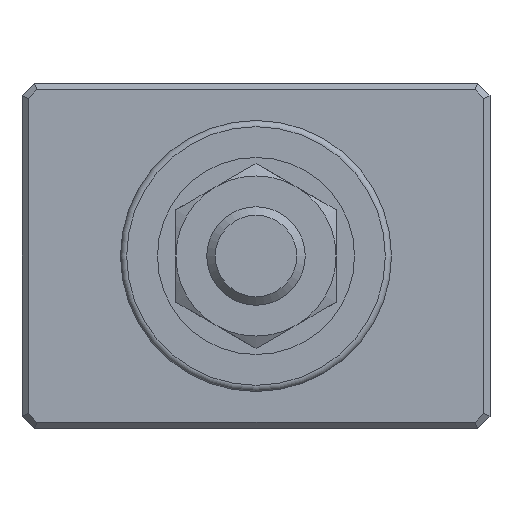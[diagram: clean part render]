
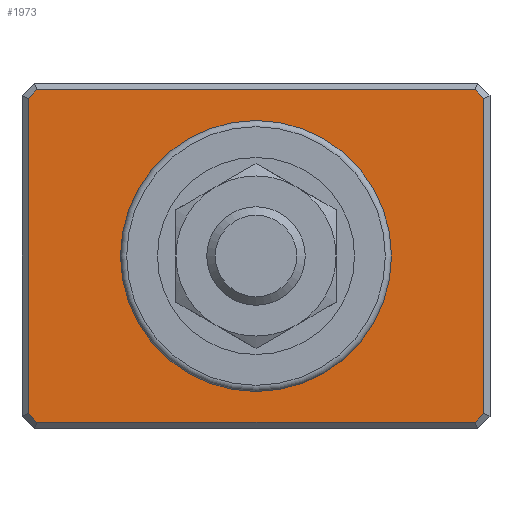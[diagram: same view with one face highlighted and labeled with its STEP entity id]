
A CAD part, front view. The second image highlights one B-rep face of the part: STEP entity #1973.
In plain terms, the highlighted planar face has unit normal (0, -1, 0).
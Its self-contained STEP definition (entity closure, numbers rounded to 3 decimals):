
#1706=CARTESIAN_POINT('',(17.793,-13.,-13.5));
#1707=VERTEX_POINT('',#1706);
#1708=CARTESIAN_POINT('',(-17.793,-13.,-13.5));
#1709=VERTEX_POINT('',#1708);
#1710=CARTESIAN_POINT('',(17.793,-13.,-13.5));
#1711=DIRECTION('',(-1.0,0.0,0.0));
#1712=VECTOR('',#1711,35.586);
#1713=LINE('',#1710,#1712);
#1714=EDGE_CURVE('',#1707,#1709,#1713,.T.);
#1746=CARTESIAN_POINT('',(-18.5,-13.,-12.793));
#1747=VERTEX_POINT('',#1746);
#1748=CARTESIAN_POINT('',(-17.793,-13.,-13.5));
#1749=DIRECTION('',(-0.707,0.0,0.707));
#1750=VECTOR('',#1749,1.);
#1751=LINE('',#1748,#1750);
#1752=EDGE_CURVE('',#1709,#1747,#1751,.T.);
#1784=CARTESIAN_POINT('',(-18.5,-13.,12.793));
#1785=VERTEX_POINT('',#1784);
#1786=CARTESIAN_POINT('',(-18.5,-13.,-12.793));
#1787=DIRECTION('',(0.0,0.0,1.0));
#1788=VECTOR('',#1787,25.586);
#1789=LINE('',#1786,#1788);
#1790=EDGE_CURVE('',#1747,#1785,#1789,.T.);
#1806=CARTESIAN_POINT('',(17.793,-13.,13.5));
#1807=VERTEX_POINT('',#1806);
#1808=CARTESIAN_POINT('',(18.5,-13.,12.793));
#1809=VERTEX_POINT('',#1808);
#1810=CARTESIAN_POINT('',(17.793,-13.,13.5));
#1811=DIRECTION('',(0.707,0.0,-0.707));
#1812=VECTOR('',#1811,1.);
#1813=LINE('',#1810,#1812);
#1814=EDGE_CURVE('',#1807,#1809,#1813,.T.);
#1837=CARTESIAN_POINT('',(-17.793,-13.,13.5));
#1838=VERTEX_POINT('',#1837);
#1839=CARTESIAN_POINT('',(-17.793,-13.,13.5));
#1840=DIRECTION('',(1.0,0.0,0.0));
#1841=VECTOR('',#1840,35.586);
#1842=LINE('',#1839,#1841);
#1843=EDGE_CURVE('',#1838,#1807,#1842,.T.);
#1861=CARTESIAN_POINT('',(-18.5,-13.,12.793));
#1862=DIRECTION('',(0.707,0.0,0.707));
#1863=VECTOR('',#1862,1.);
#1864=LINE('',#1861,#1863);
#1865=EDGE_CURVE('',#1785,#1838,#1864,.T.);
#1880=CARTESIAN_POINT('',(18.5,-13.,-12.793));
#1881=VERTEX_POINT('',#1880);
#1882=CARTESIAN_POINT('',(18.5,-13.,12.793));
#1883=DIRECTION('',(0.0,0.0,-1.0));
#1884=VECTOR('',#1883,25.586);
#1885=LINE('',#1882,#1884);
#1886=EDGE_CURVE('',#1809,#1881,#1885,.T.);
#1902=CARTESIAN_POINT('',(18.5,-13.,-12.793));
#1903=DIRECTION('',(-0.707,0.0,-0.707));
#1904=VECTOR('',#1903,1.);
#1905=LINE('',#1902,#1904);
#1906=EDGE_CURVE('',#1881,#1707,#1905,.T.);
#1947=CARTESIAN_POINT('',(0.0,-13.,-14.));
#1948=DIRECTION('',(0.0,-1.0,0.0));
#1949=DIRECTION('',(0.0,0.0,-1.0));
#1950=AXIS2_PLACEMENT_3D('',#1947,#1948,#1949);
#1951=PLANE('',#1950);
#1952=ORIENTED_EDGE('',*,*,#1814,.F.);
#1953=ORIENTED_EDGE('',*,*,#1843,.F.);
#1954=ORIENTED_EDGE('',*,*,#1865,.F.);
#1955=ORIENTED_EDGE('',*,*,#1790,.F.);
#1956=ORIENTED_EDGE('',*,*,#1752,.F.);
#1957=ORIENTED_EDGE('',*,*,#1714,.F.);
#1958=ORIENTED_EDGE('',*,*,#1906,.F.);
#1959=ORIENTED_EDGE('',*,*,#1886,.F.);
#1960=EDGE_LOOP('',(#1952,#1953,#1954,#1955,#1956,#1957,#1958,#1959));
#1961=FACE_OUTER_BOUND('',#1960,.T.);
#1962=CARTESIAN_POINT('',(0.0,-13.,11.));
#1963=VERTEX_POINT('',#1962);
#1964=CARTESIAN_POINT('',(0.0,-13.,0.0));
#1965=DIRECTION('',(0.0,1.0,0.0));
#1966=DIRECTION('',(0.0,0.0,1.0));
#1967=AXIS2_PLACEMENT_3D('',#1964,#1965,#1966);
#1968=CIRCLE('',#1967,11.0);
#1969=EDGE_CURVE('',#1963,#1963,#1968,.T.);
#1970=ORIENTED_EDGE('',*,*,#1969,.T.);
#1971=EDGE_LOOP('',(#1970));
#1972=FACE_BOUND('',#1971,.T.);
#1973=ADVANCED_FACE('',(#1961,#1972),#1951,.T.);
